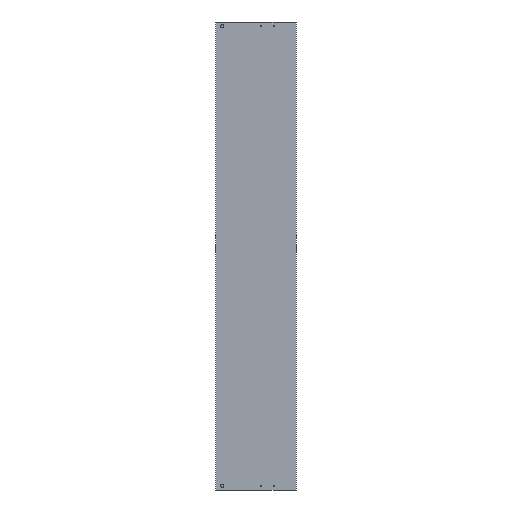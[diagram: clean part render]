
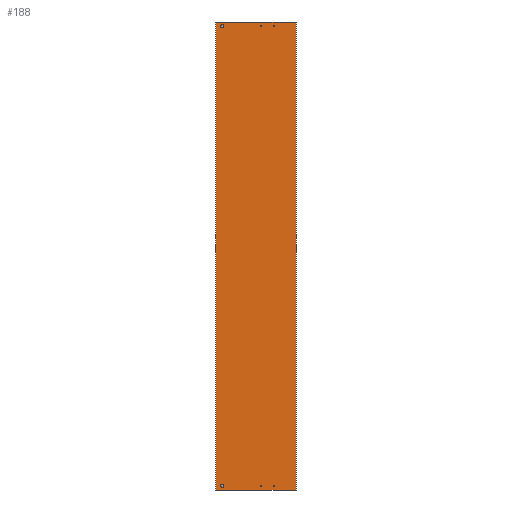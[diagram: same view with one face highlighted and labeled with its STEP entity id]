
A CAD part, left-side view. The second image highlights one B-rep face of the part: STEP entity #188.
In plain terms, the highlighted planar face has unit normal (-1, 0, 0).
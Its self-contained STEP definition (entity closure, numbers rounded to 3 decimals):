
#7 = EDGE_LOOP ( 'NONE', ( #9, #492 ) ) ;
#9 = ORIENTED_EDGE ( 'NONE', *, *, #488, .F. ) ;
#16 = DIRECTION ( 'NONE',  ( 0., -1., 0. ) ) ;
#19 = ORIENTED_EDGE ( 'NONE', *, *, #62, .F. ) ;
#23 = CARTESIAN_POINT ( 'NONE',  ( 0., 154.4, -10.5 ) ) ;
#24 = VECTOR ( 'NONE', #223, 1000. ) ;
#29 = AXIS2_PLACEMENT_3D ( 'NONE', #461, #507, #509 ) ;
#37 = CARTESIAN_POINT ( 'NONE',  ( 0., 154.5, -1149.5 ) ) ;
#39 = VERTEX_POINT ( 'NONE', #51 ) ;
#43 = VERTEX_POINT ( 'NONE', #87 ) ;
#44 = DIRECTION ( 'NONE',  ( 0., -1., 0. ) ) ;
#51 = CARTESIAN_POINT ( 'NONE',  ( 0., 175., -1160. ) ) ;
#57 = EDGE_CURVE ( 'NONE', #109, #253, #114, .T. ) ;
#62 = EDGE_CURVE ( 'NONE', #253, #109, #724, .T. ) ;
#69 = CARTESIAN_POINT ( 'NONE',  ( 0., 61., -10.5 ) ) ;
#70 = CARTESIAN_POINT ( 'NONE',  ( 0., 62.5, -10.5 ) ) ;
#71 = CARTESIAN_POINT ( 'NONE',  ( 0., 29., -10.5 ) ) ;
#72 = DIRECTION ( 'NONE',  ( -1., 0., 0. ) ) ;
#77 = VERTEX_POINT ( 'NONE', #700 ) ;
#78 = AXIS2_PLACEMENT_3D ( 'NONE', #566, #560, #616 ) ;
#86 = CARTESIAN_POINT ( 'NONE',  ( 0., -24.5, -1160. ) ) ;
#87 = CARTESIAN_POINT ( 'NONE',  ( 0., -24.5, 0. ) ) ;
#88 = CIRCLE ( 'NONE', #302, 1.5 ) ;
#95 = EDGE_CURVE ( 'NONE', #546, #43, #206, .T. ) ;
#97 = CARTESIAN_POINT ( 'NONE',  ( 0., 62.5, -1149.5 ) ) ;
#101 = VERTEX_POINT ( 'NONE', #71 ) ;
#102 = DIRECTION ( 'NONE',  ( 0., -1., 0. ) ) ;
#109 = VERTEX_POINT ( 'NONE', #69 ) ;
#114 = CIRCLE ( 'NONE', #404, 1.5 ) ;
#145 = DIRECTION ( 'NONE',  ( -1., 0., 0. ) ) ;
#146 = ORIENTED_EDGE ( 'NONE', *, *, #420, .F. ) ;
#163 = EDGE_CURVE ( 'NONE', #77, #101, #308, .T. ) ;
#164 = ORIENTED_EDGE ( 'NONE', *, *, #299, .F. ) ;
#167 = VERTEX_POINT ( 'NONE', #190 ) ;
#169 = EDGE_CURVE ( 'NONE', #391, #606, #717, .T. ) ;
#175 = AXIS2_PLACEMENT_3D ( 'NONE', #282, #397, #498 ) ;
#188 = ADVANCED_FACE ( 'NONE', ( #701, #213, #747, #478, #236, #626, #716 ), #485, .T. ) ;
#190 = CARTESIAN_POINT ( 'NONE',  ( 0., 32., -1149.5 ) ) ;
#194 = LINE ( 'NONE', #573, #376 ) ;
#197 = ORIENTED_EDGE ( 'NONE', *, *, #242, .F. ) ;
#200 = DIRECTION ( 'NONE',  ( -1., 0., 0. ) ) ;
#203 = DIRECTION ( 'NONE',  ( 0., -1., 0. ) ) ;
#206 = LINE ( 'NONE', #456, #24 ) ;
#209 = DIRECTION ( 'NONE',  ( -1., 0., 0. ) ) ;
#213 = FACE_BOUND ( 'NONE', #422, .T. ) ;
#215 = CARTESIAN_POINT ( 'NONE',  ( 0., 162.6, -10.5 ) ) ;
#217 = AXIS2_PLACEMENT_3D ( 'NONE', #231, #200, #599 ) ;
#220 = EDGE_CURVE ( 'NONE', #39, #546, #243, .T. ) ;
#223 = DIRECTION ( 'NONE',  ( 0., 0., 1. ) ) ;
#231 = CARTESIAN_POINT ( 'NONE',  ( 0., 30.5, -1149.5 ) ) ;
#235 = AXIS2_PLACEMENT_3D ( 'NONE', #511, #145, #360 ) ;
#236 = FACE_BOUND ( 'NONE', #7, .T. ) ;
#242 = EDGE_CURVE ( 'NONE', #167, #656, #544, .T. ) ;
#243 = LINE ( 'NONE', #307, #581 ) ;
#253 = VERTEX_POINT ( 'NONE', #622 ) ;
#255 = ORIENTED_EDGE ( 'NONE', *, *, #618, .F. ) ;
#257 = EDGE_LOOP ( 'NONE', ( #687, #255 ) ) ;
#258 = CARTESIAN_POINT ( 'NONE',  ( 0., 64., -1149.5 ) ) ;
#261 = CARTESIAN_POINT ( 'NONE',  ( 0., 62.5, -1149.5 ) ) ;
#262 = CARTESIAN_POINT ( 'NONE',  ( 0., 158.5, -10.5 ) ) ;
#267 = EDGE_LOOP ( 'NONE', ( #406, #603 ) ) ;
#268 = DIRECTION ( 'NONE',  ( -1., 0., 0. ) ) ;
#273 = EDGE_LOOP ( 'NONE', ( #452, #617 ) ) ;
#276 = VECTOR ( 'NONE', #279, 1000. ) ;
#279 = DIRECTION ( 'NONE',  ( 0., 0., 1. ) ) ;
#282 = CARTESIAN_POINT ( 'NONE',  ( 0., 30.5, -10.5 ) ) ;
#288 = EDGE_CURVE ( 'NONE', #101, #77, #555, .T. ) ;
#299 = EDGE_CURVE ( 'NONE', #369, #43, #194, .T. ) ;
#302 = AXIS2_PLACEMENT_3D ( 'NONE', #97, #407, #371 ) ;
#306 = AXIS2_PLACEMENT_3D ( 'NONE', #458, #496, #102 ) ;
#307 = CARTESIAN_POINT ( 'NONE',  ( 0., 174.5, -1160. ) ) ;
#308 = CIRCLE ( 'NONE', #306, 1.5 ) ;
#338 = DIRECTION ( 'NONE',  ( 0., -1., 0. ) ) ;
#348 = CARTESIAN_POINT ( 'NONE',  ( 0., 175., 0. ) ) ;
#360 = DIRECTION ( 'NONE',  ( 0., -1., 0. ) ) ;
#363 = VERTEX_POINT ( 'NONE', #258 ) ;
#369 = VERTEX_POINT ( 'NONE', #396 ) ;
#371 = DIRECTION ( 'NONE',  ( 0., -1., 0. ) ) ;
#375 = CARTESIAN_POINT ( 'NONE',  ( 0., 158.5, -10.5 ) ) ;
#376 = VECTOR ( 'NONE', #523, 1000. ) ;
#378 = AXIS2_PLACEMENT_3D ( 'NONE', #375, #268, #417 ) ;
#391 = VERTEX_POINT ( 'NONE', #215 ) ;
#396 = CARTESIAN_POINT ( 'NONE',  ( 0., 175., 0. ) ) ;
#397 = DIRECTION ( 'NONE',  ( -1., 0., 0. ) ) ;
#404 = AXIS2_PLACEMENT_3D ( 'NONE', #70, #660, #16 ) ;
#406 = ORIENTED_EDGE ( 'NONE', *, *, #288, .F. ) ;
#407 = DIRECTION ( 'NONE',  ( -1., 0., 0. ) ) ;
#415 = VERTEX_POINT ( 'NONE', #744 ) ;
#417 = DIRECTION ( 'NONE',  ( 0., -1., 0. ) ) ;
#420 = EDGE_CURVE ( 'NONE', #39, #369, #621, .T. ) ;
#422 = EDGE_LOOP ( 'NONE', ( #665, #19 ) ) ;
#445 = VERTEX_POINT ( 'NONE', #37 ) ;
#452 = ORIENTED_EDGE ( 'NONE', *, *, #558, .F. ) ;
#456 = CARTESIAN_POINT ( 'NONE',  ( 0., -24.5, -1160. ) ) ;
#458 = CARTESIAN_POINT ( 'NONE',  ( 0., 30.5, -10.5 ) ) ;
#461 = CARTESIAN_POINT ( 'NONE',  ( 0., 158.5, -1149.5 ) ) ;
#467 = CARTESIAN_POINT ( 'NONE',  ( 0., 62.5, -10.5 ) ) ;
#472 = DIRECTION ( 'NONE',  ( 0., -1., 0. ) ) ;
#478 = FACE_BOUND ( 'NONE', #604, .T. ) ;
#479 = AXIS2_PLACEMENT_3D ( 'NONE', #262, #72, #44 ) ;
#482 = CARTESIAN_POINT ( 'NONE',  ( 0., 29., -1149.5 ) ) ;
#485 = PLANE ( 'NONE',  #235 ) ;
#488 = EDGE_CURVE ( 'NONE', #415, #363, #88, .T. ) ;
#490 = DIRECTION ( 'NONE',  ( -1., 0., 0. ) ) ;
#492 = ORIENTED_EDGE ( 'NONE', *, *, #577, .F. ) ;
#496 = DIRECTION ( 'NONE',  ( -1., 0., 0. ) ) ;
#498 = DIRECTION ( 'NONE',  ( 0., -1., 0. ) ) ;
#499 = CARTESIAN_POINT ( 'NONE',  ( 0., 158.5, -1149.5 ) ) ;
#505 = EDGE_CURVE ( 'NONE', #656, #167, #535, .T. ) ;
#507 = DIRECTION ( 'NONE',  ( -1., 0., 0. ) ) ;
#509 = DIRECTION ( 'NONE',  ( 0., -1., 0. ) ) ;
#511 = CARTESIAN_POINT ( 'NONE',  ( 0., -19.3, -1160. ) ) ;
#521 = DIRECTION ( 'NONE',  ( -1., 0., 0. ) ) ;
#523 = DIRECTION ( 'NONE',  ( 0., -1., 0. ) ) ;
#535 = CIRCLE ( 'NONE', #78, 1.5 ) ;
#544 = CIRCLE ( 'NONE', #217, 1.5 ) ;
#546 = VERTEX_POINT ( 'NONE', #86 ) ;
#555 = CIRCLE ( 'NONE', #175, 1.5 ) ;
#558 = EDGE_CURVE ( 'NONE', #606, #391, #708, .T. ) ;
#560 = DIRECTION ( 'NONE',  ( -1., 0., 0. ) ) ;
#561 = EDGE_LOOP ( 'NONE', ( #164, #146, #663, #647 ) ) ;
#566 = CARTESIAN_POINT ( 'NONE',  ( 0., 30.5, -1149.5 ) ) ;
#573 = CARTESIAN_POINT ( 'NONE',  ( 0., -19.3, 0. ) ) ;
#577 = EDGE_CURVE ( 'NONE', #363, #415, #735, .T. ) ;
#581 = VECTOR ( 'NONE', #203, 1000. ) ;
#589 = CIRCLE ( 'NONE', #29, 4. ) ;
#590 = CIRCLE ( 'NONE', #695, 4. ) ;
#599 = DIRECTION ( 'NONE',  ( 0., -1., 0. ) ) ;
#603 = ORIENTED_EDGE ( 'NONE', *, *, #163, .F. ) ;
#604 = EDGE_LOOP ( 'NONE', ( #673, #197 ) ) ;
#606 = VERTEX_POINT ( 'NONE', #23 ) ;
#609 = EDGE_CURVE ( 'NONE', #445, #702, #590, .T. ) ;
#616 = DIRECTION ( 'NONE',  ( 0., -1., 0. ) ) ;
#617 = ORIENTED_EDGE ( 'NONE', *, *, #169, .F. ) ;
#618 = EDGE_CURVE ( 'NONE', #702, #445, #589, .T. ) ;
#620 = AXIS2_PLACEMENT_3D ( 'NONE', #261, #209, #338 ) ;
#621 = LINE ( 'NONE', #348, #276 ) ;
#622 = CARTESIAN_POINT ( 'NONE',  ( 0., 64., -10.5 ) ) ;
#626 = FACE_BOUND ( 'NONE', #257, .T. ) ;
#632 = DIRECTION ( 'NONE',  ( 0., -1., 0. ) ) ;
#647 = ORIENTED_EDGE ( 'NONE', *, *, #95, .T. ) ;
#656 = VERTEX_POINT ( 'NONE', #482 ) ;
#660 = DIRECTION ( 'NONE',  ( -1., 0., 0. ) ) ;
#663 = ORIENTED_EDGE ( 'NONE', *, *, #220, .T. ) ;
#664 = CARTESIAN_POINT ( 'NONE',  ( 0., 162.5, -1149.5 ) ) ;
#665 = ORIENTED_EDGE ( 'NONE', *, *, #57, .F. ) ;
#673 = ORIENTED_EDGE ( 'NONE', *, *, #505, .F. ) ;
#687 = ORIENTED_EDGE ( 'NONE', *, *, #609, .F. ) ;
#695 = AXIS2_PLACEMENT_3D ( 'NONE', #499, #490, #472 ) ;
#700 = CARTESIAN_POINT ( 'NONE',  ( 0., 32., -10.5 ) ) ;
#701 = FACE_BOUND ( 'NONE', #267, .T. ) ;
#702 = VERTEX_POINT ( 'NONE', #664 ) ;
#708 = CIRCLE ( 'NONE', #479, 4.1 ) ;
#713 = AXIS2_PLACEMENT_3D ( 'NONE', #467, #521, #632 ) ;
#716 = FACE_OUTER_BOUND ( 'NONE', #561, .T. ) ;
#717 = CIRCLE ( 'NONE', #378, 4.1 ) ;
#724 = CIRCLE ( 'NONE', #713, 1.5 ) ;
#735 = CIRCLE ( 'NONE', #620, 1.5 ) ;
#744 = CARTESIAN_POINT ( 'NONE',  ( 0., 61., -1149.5 ) ) ;
#747 = FACE_BOUND ( 'NONE', #273, .T. ) ;
